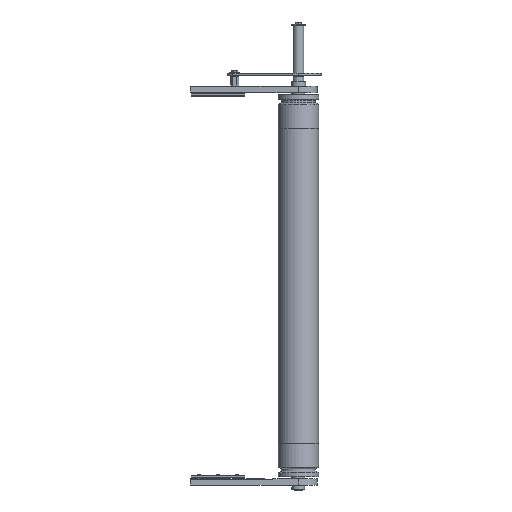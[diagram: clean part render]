
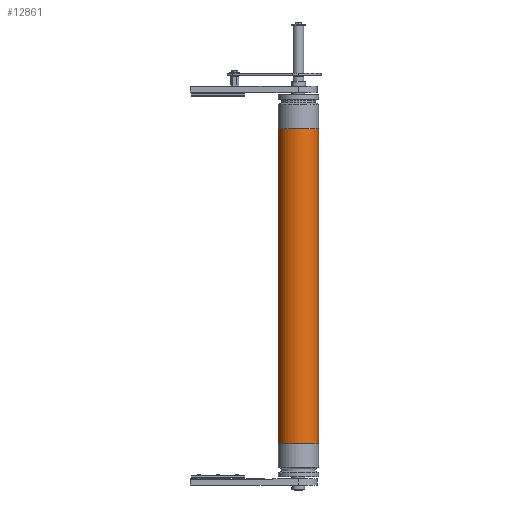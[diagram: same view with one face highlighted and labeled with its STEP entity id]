
A CAD part, front view. The second image highlights one B-rep face of the part: STEP entity #12861.
In plain terms, the highlighted cylindrical face has radius 48 mm (diameter 96 mm), a partial arc.
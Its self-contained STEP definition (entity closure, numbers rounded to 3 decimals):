
#1216 = CARTESIAN_POINT ( 'NONE',  ( 371.5, 0., 0. ) ) ;
#1489 = DIRECTION ( 'NONE',  ( 0., 0., -1. ) ) ;
#1902 = AXIS2_PLACEMENT_3D ( 'NONE', #20370, #11782, #16831 ) ;
#2275 = VERTEX_POINT ( 'NONE', #15861 ) ;
#2340 = CIRCLE ( 'NONE', #9570, 48. ) ;
#2629 = EDGE_LOOP ( 'NONE', ( #3603, #17021, #12297, #9130 ) ) ;
#2713 = EDGE_CURVE ( 'NONE', #22058, #16132, #16471, .T. ) ;
#3603 = ORIENTED_EDGE ( 'NONE', *, *, #2713, .F. ) ;
#4464 = CARTESIAN_POINT ( 'NONE',  ( 371.5, 0., -48. ) ) ;
#4505 = VERTEX_POINT ( 'NONE', #12954 ) ;
#4821 = CARTESIAN_POINT ( 'NONE',  ( -371.5, 0., 0. ) ) ;
#6207 = CARTESIAN_POINT ( 'NONE',  ( 371.5, 0., 48. ) ) ;
#6508 = CYLINDRICAL_SURFACE ( 'NONE', #20354, 48. ) ;
#7123 = EDGE_CURVE ( 'NONE', #4505, #2275, #10766, .T. ) ;
#8271 = DIRECTION ( 'NONE',  ( -1., 0., 0. ) ) ;
#8367 = EDGE_CURVE ( 'NONE', #2275, #16132, #2340, .T. ) ;
#9130 = ORIENTED_EDGE ( 'NONE', *, *, #8367, .T. ) ;
#9532 = DIRECTION ( 'NONE',  ( -1., 0., 0. ) ) ;
#9570 = AXIS2_PLACEMENT_3D ( 'NONE', #4821, #13700, #1489 ) ;
#10036 = CARTESIAN_POINT ( 'NONE',  ( -371.5, 0., -48. ) ) ;
#10766 = LINE ( 'NONE', #6207, #15081 ) ;
#11084 = FACE_OUTER_BOUND ( 'NONE', #2629, .T. ) ;
#11331 = VECTOR ( 'NONE', #8271, 1000. ) ;
#11575 = CIRCLE ( 'NONE', #1902, 48. ) ;
#11782 = DIRECTION ( 'NONE',  ( 1., 0., 0. ) ) ;
#12297 = ORIENTED_EDGE ( 'NONE', *, *, #7123, .T. ) ;
#12861 = ADVANCED_FACE ( 'NONE', ( #11084 ), #6508, .T. ) ;
#12954 = CARTESIAN_POINT ( 'NONE',  ( 371.5, 0., 48. ) ) ;
#13700 = DIRECTION ( 'NONE',  ( 1., 0., 0. ) ) ;
#15081 = VECTOR ( 'NONE', #18268, 1000. ) ;
#15144 = CARTESIAN_POINT ( 'NONE',  ( 371.5, 0., -48. ) ) ;
#15861 = CARTESIAN_POINT ( 'NONE',  ( -371.5, 0., 48. ) ) ;
#16132 = VERTEX_POINT ( 'NONE', #10036 ) ;
#16471 = LINE ( 'NONE', #15144, #11331 ) ;
#16551 = DIRECTION ( 'NONE',  ( 0., 0., 1. ) ) ;
#16831 = DIRECTION ( 'NONE',  ( 0., 0., -1. ) ) ;
#17021 = ORIENTED_EDGE ( 'NONE', *, *, #18267, .F. ) ;
#18267 = EDGE_CURVE ( 'NONE', #4505, #22058, #11575, .T. ) ;
#18268 = DIRECTION ( 'NONE',  ( -1., 0., 0. ) ) ;
#20354 = AXIS2_PLACEMENT_3D ( 'NONE', #1216, #9532, #16551 ) ;
#20370 = CARTESIAN_POINT ( 'NONE',  ( 371.5, 0., 0. ) ) ;
#22058 = VERTEX_POINT ( 'NONE', #4464 ) ;
